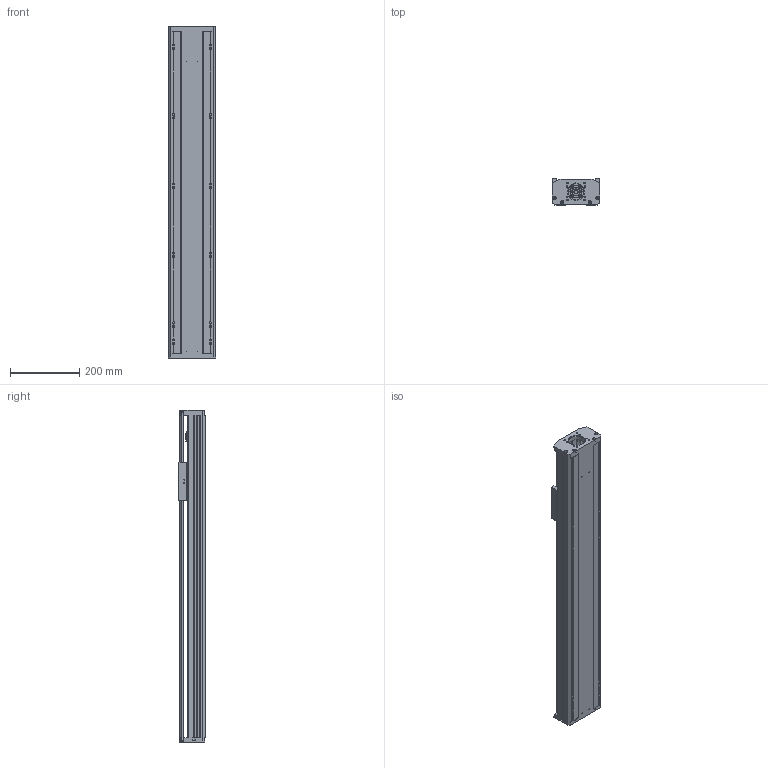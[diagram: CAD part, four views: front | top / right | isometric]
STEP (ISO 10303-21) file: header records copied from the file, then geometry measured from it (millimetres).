
FILE_DESCRIPTION(/* description */ (''),/* implementation_level */ '2;1');
FILE_NAME(/* name */ 'TKA136-F0-700_asm1.stp',/* time_stamp */ '2016-05-07T08:31:57+08:00',/* author */ (''),/* organization */ (''),/* preprocessor_version */ 'ST-DEVELOPER v15',/* originating_system */ 'SIEMENS PLM Software NX 8.5',/* authorisation */ '');
FILE_SCHEMA (('AUTOMOTIVE_DESIGN { 1 0 10303 214 3 1 1 1 }'));
Length unit declared in the file: millimetre
Products named in the file (3): 700-02; 700-01; TKA136-F0-700_asm1
Assembly tree (2 placements, depth 2):
  TKA136-F0-700_asm1
    700-01
    700-02
Bounding box: 136 x 75 x 957 mm (x, y, z)
Volume: 3034036.5 mm3; surface area: 1118944.5 mm2
Topology: 2 solids, 12 shells, 829 faces, 2349 edges, 1534 vertices
Faces by surface type: cylinder 390, plane 385, cone 54
Full cylindrical faces by diameter (mm): 2.5 x4, 3 x2, 3.3 x12, 4 x4, 4.2 x10, 4.5 x20, 5 x16, 5.5 x26, 6.6 x16, 8 x20, 10 x9, 10.5 x12, 11 x4, 11.6 x1, 12 x9, 15 x3, 16 x5, 17 x1, 24 x5, 26 x1, 28 x1, 46 x1, 50 x1
Entity records: 27948 total; most frequent: CARTESIAN_POINT 7662, DIRECTION 4187, ORIENTED_EDGE 3944, EDGE_CURVE 1972, AXIS2_PLACEMENT_3D 1595, VERTEX_POINT 1420, EDGE_LOOP 1214, LINE 997
